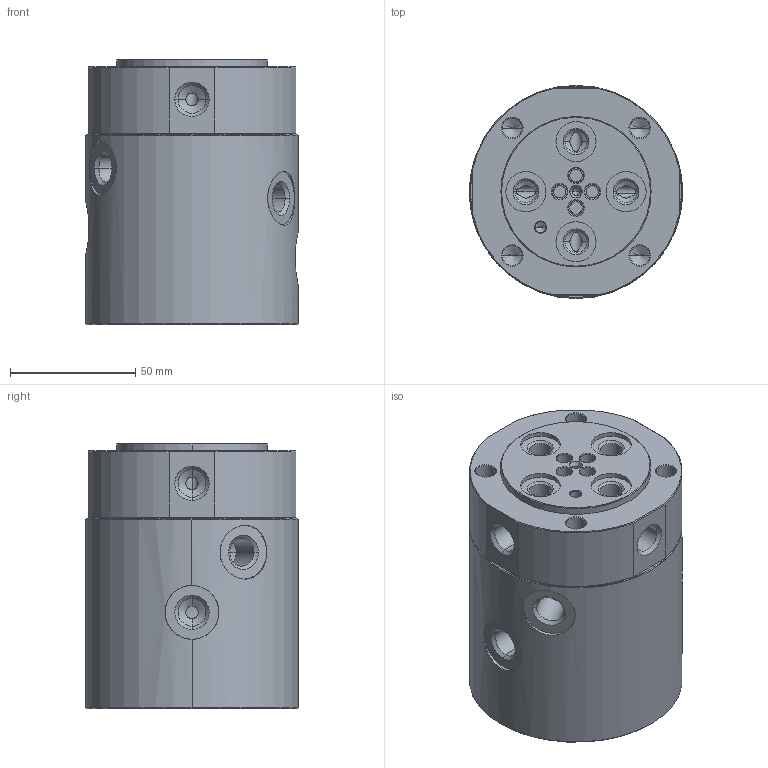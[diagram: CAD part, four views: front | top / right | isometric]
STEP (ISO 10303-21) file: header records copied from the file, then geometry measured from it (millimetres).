
FILE_DESCRIPTION(/* description */ (''),/* implementation_level */ '2;1');
FILE_NAME(/* name */ '04.stp',/* time_stamp */ '2024-09-03T09:06:44+08:00',/* author */ (''),/* organization */ (''),/* preprocessor_version */ 'ST-DEVELOPER v16.7',/* originating_system */ 'SIEMENS PLM Software NX 12.0',/* authorisation */ '');
FILE_SCHEMA (('AP203_CONFIGURATION_CONTROLLED_3D_DESIGN_OF_MECHANICAL_PARTS_AND_ASSEMBLIES_MIM_LF { 1 0 10303 403 2 1 2}'));
Length unit declared in the file: millimetre
Products named in the file (1): TMA04-S-A_stp
Bounding box: 85 x 85 x 106 mm (x, y, z)
Volume: 572864.9 mm3; surface area: 63192.7 mm2
Topology: 2 solids, 2 shells, 273 faces, 633 edges, 368 vertices
Faces by surface type: cone 120, cylinder 116, plane 33, torus 4
Entity records: 8224 total; most frequent: CARTESIAN_POINT 1869, DIRECTION 1425, ORIENTED_EDGE 1226, EDGE_CURVE 613, AXIS2_PLACEMENT_3D 595, VERTEX_POINT 368, EDGE_LOOP 313, CIRCLE 291
